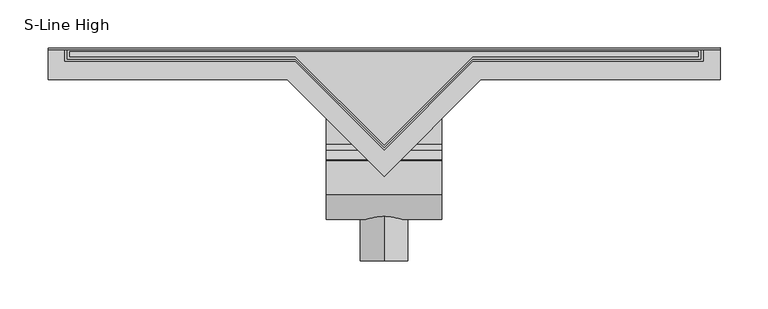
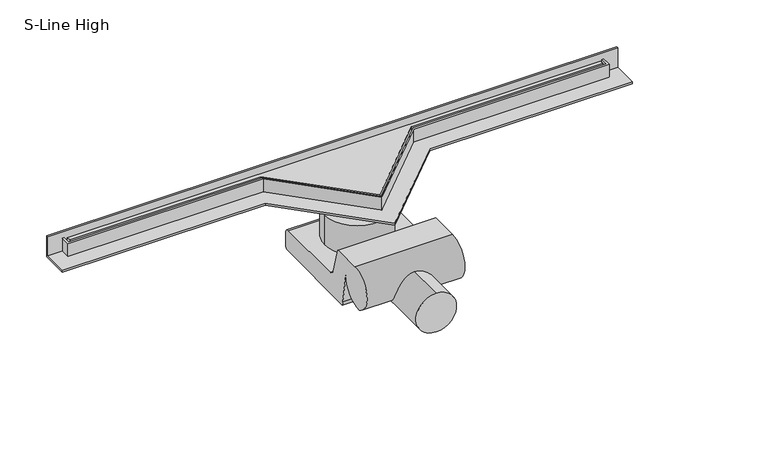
"""IFC4 building model written with IfcOpenShell, lengths in millimetres: sanitary terminal geometry, NLRS_PF_52_UN_S-Line TAF High_Easydrain : S-Line High."""

from ifc_helpers import new_model, si_unit, point, frame, frame_2d, origin, place, context, project, spatial, polyline, circle_curve, trimmed, segment, composite_curve, outline, extrude, faceted_brep, source, transform, mapped, element, save


def s_line_high_d0269925(model_context):
    return source(origin(), model_context, "Body", "SolidModel", [
        extrude(outline(composite_curve([segment(trimmed(circle_curve(frame_2d((-80.0, 0.0)), 25.0), [point((-105.0, 0.0))], [point((-55.0, 0.0))], False, "CARTESIAN"), True, "CONTINUOUS"), segment(trimmed(circle_curve(frame_2d((-80.0, 0.0)), 25.0), [point((-55.0, 0.0))], [point((-105.0, 0.0))], False, "CARTESIAN"), True, "CONTINUOUS")], self_intersect=False)), frame((0.0, -189.0, 0.0), z_axis=(0.0, 1.0, 0.0), x_axis=(0.0, 0.0, 1.0)), (0.0, 0.0, 1.0), 108.0),
        extrude(outline(composite_curve([segment(trimmed(circle_curve(frame_2d((22.3675767, -102.3675767)), 4.6324233), [point((27.0, -102.3675767))], [point((22.3675767, -107.0))], False, "CARTESIAN"), True, "CONTINUOUS"), segment(polyline([(22.3675767, -107.0), (-93.4993465, -107.0)]), True, "CONTINUOUS"), segment(trimmed(circle_curve(frame_2d((-78.5994856, -101.1878307)), 15.9933476), [point((-93.4993465, -107.0))], [point((-94.552105, -102.3284894))], False, "CARTESIAN"), True, "CONTINUOUS"), segment(polyline([(-94.552105, -102.3284894), (-101.0242264, -63.5447741)]), True, "CONTINUOUS"), segment(trimmed(circle_curve(frame_2d((-129.3084976, -63.5447741)), 28.2842712), [point((-101.0242264, -63.5447741))], [point((-129.3084976, -91.8290454))], False, "CARTESIAN"), True, "CONTINUOUS"), segment(trimmed(circle_curve(frame_2d((-119.8439198, -67.2956944)), 26.2956944), [point((-129.3084976, -91.8290454))], [point((-119.8439198, -41.0))], False, "CARTESIAN"), True, "CONTINUOUS"), segment(polyline([(-119.8439198, -41.0), (-84.5778291, -41.0)]), True, "CONTINUOUS"), segment(trimmed(circle_curve(frame_2d((-89.0794932, -46.731688)), 7.2881566), [point((-84.5778291, -41.0))], [point((-83.3799699, -42.189369))], False, "CARTESIAN"), True, "CONTINUOUS"), segment(polyline([(-83.3799699, -42.189369), (-74.2149251, -75.0)]), True, "CONTINUOUS"), segment(trimmed(circle_curve(frame_2d((-67.2657703, -72.6709247)), 7.3290753), [point((-74.2149251, -75.0))], [point((-67.2657703, -80.0))], True, "CARTESIAN"), True, "CONTINUOUS"), segment(polyline([(-67.2657703, -80.0), (21.6324233, -80.0)]), True, "CONTINUOUS"), segment(trimmed(circle_curve(frame_2d((21.6324233, -85.3675767)), 5.3675767), [point((21.6324233, -80.0))], [point((27.0, -85.3675767))], False, "CARTESIAN"), True, "CONTINUOUS"), segment(polyline([(27.0, -85.3675767), (27.0, -102.3675767)]), True, "CONTINUOUS")], self_intersect=False)), frame((-60.0, 0.0, 0.0), z_axis=(1.0, 0.0, 0.0), x_axis=(0.0, 1.0, 0.0)), (0.0, 0.0, 1.0), 120.0),
        extrude(outline(composite_curve([segment(trimmed(circle_curve(frame_2d((0.0, -21.0)), 40.0), [point((-40.0, -21.0))], [point((40.0, -21.0))], False, "CARTESIAN"), True, "CONTINUOUS"), segment(trimmed(circle_curve(frame_2d((0.0, -21.0)), 40.0), [point((40.0, -21.0))], [point((-40.0, -21.0))], False, "CARTESIAN"), True, "CONTINUOUS")], self_intersect=False)), frame((0.0, 0.0, -80.0), z_axis=(0.0, 0.0, 1.0), x_axis=(1.0, 0.0, 0.0)), (0.0, 0.0, 1.0), 39.0),
        extrude(outline(composite_curve([segment(trimmed(circle_curve(frame_2d((0.0, -21.0)), 25.0), [point((-25.0, -21.0))], [point((25.0, -21.0))], False, "CARTESIAN"), True, "CONTINUOUS"), segment(trimmed(circle_curve(frame_2d((0.0, -21.0)), 25.0), [point((25.0, -21.0))], [point((-25.0, -21.0))], False, "CARTESIAN"), True, "CONTINUOUS")], self_intersect=False)), frame((0.0, 0.0, -41.0), z_axis=(0.0, 0.0, 1.0), x_axis=(1.0, 0.0, 0.0)), (0.0, 0.0, 1.0), 24.0),
        faceted_brep([(350.0, 33.0, 8.0), (-350.0, 33.0, 8.0), (-350.0, 31.0, 8.0), (350.0, 31.0, 8.0), (-350.0, 31.0, -17.0), (350.0, 31.0, -17.0), (-336.0, 15.5, -24.5), (-336.0, 29.0, -24.5), (336.0, 29.0, -24.5), (336.0, 15.5, -24.5), (96.0, 15.5, -24.5), (0.0, -80.5, -24.5), (-96.0, 15.5, -24.5), (-96.0, 15.5, -19.5), (-336.0, 15.5, -19.5), (-336.0, 29.0, -19.5), (336.0, 29.0, -19.5), (336.0, 15.5, -19.5), (96.0, 15.5, -19.5), (0.0, -80.5, -19.5), (350.0, 33.0, -19.5), (350.0, 0.0, -19.5), (101.0, 0.0, -19.5), (0.0, -101.0, -19.5), (-101.0, 0.0, -19.5), (-350.0, 0.0, -19.5), (-350.0, 33.0, -19.5), (-350.0, 0.0, -17.0), (-101.0, 0.0, -17.0), (0.0, -101.0, -17.0), (101.0, 0.0, -17.0), (350.0, 0.0, -17.0)], [[[0, 1, 2, 3]], [[3, 2, 4, 5]], [[6, 7, 8, 9, 10, 11, 12]], [[6, 12, 13, 14]], [[7, 6, 14, 15]], [[8, 7, 15, 16]], [[9, 8, 16, 17]], [[10, 9, 17, 18]], [[11, 10, 18, 19]], [[12, 11, 19, 13]], [[20, 21, 22, 23, 24, 25, 26], [14, 13, 19, 18, 17, 16, 15]], [[27, 28, 29, 30, 31, 5, 4]], [[20, 26, 1, 0]], [[26, 25, 27, 4, 2, 1]], [[25, 24, 28, 27]], [[24, 23, 29, 28]], [[23, 22, 30, 29]], [[22, 21, 31, 30]], [[21, 20, 0, 3, 5, 31]]]),
        extrude(outline(composite_curve([segment(trimmed(circle_curve(frame_2d((0.0, -21.0)), 25.0), [point((-25.0, -21.0))], [point((25.0, -21.0))], False, "CARTESIAN"), True, "CONTINUOUS"), segment(trimmed(circle_curve(frame_2d((0.0, -21.0)), 25.0), [point((25.0, -21.0))], [point((-25.0, -21.0))], False, "CARTESIAN"), True, "CONTINUOUS")], self_intersect=False)), frame((0.0, 0.0, -24.5), z_axis=(0.0, 0.0, 1.0), x_axis=(1.0, 0.0, 0.0)), (0.0, 0.0, 1.0), 7.5),
        extrude(outline(polyline([(-92.5, 24.0), (-327.5, 24.0), (-327.5, 29.0), (327.5, 29.0), (327.5, 24.0), (92.5, 24.0), (0.0, -68.5), (-92.5, 24.0)])), frame((0.0, 0.0, -17.0), z_axis=(0.0, 0.0, 1.0), x_axis=(1.0, 0.0, 0.0)), (0.0, 0.0, 1.0), 17.0),
        extrude(outline(polyline([(332.5, 33.0), (332.5, 19.0), (92.5, 19.0), (0.0, -73.5), (-92.5, 19.0), (-332.5, 19.0), (-332.5, 33.0), (332.5, 33.0)]), holes=[polyline([(-92.5, 21.5), (0.0, -71.0), (92.5, 21.5), (330.0, 21.5), (330.0, 31.0), (-330.0, 31.0), (-330.0, 21.5), (-92.5, 21.5)])]), frame((0.0, 0.0, -17.0), z_axis=(0.0, 0.0, 1.0), x_axis=(1.0, 0.0, 0.0)), (0.0, 0.0, 1.0), 17.0),
    ])


if __name__ == "__main__":
    model = new_model("IFC4")
    model_context = context("Model", 3, world=origin())
    ifc_project = project(units=[si_unit("LENGTHUNIT", "METRE", prefix="MILLI")], contexts=[model_context])
    site = spatial("IfcSite", under=ifc_project)
    building = spatial("IfcBuilding", under=site)
    placement = place(None, origin())
    s_line_high_shape = s_line_high_d0269925(model_context)
    element("IfcSanitaryTerminal", 1, ObjectType="NLRS_PF_52_UN_S-Line TAF High_Easydrain : S-Line High", at=placement, inside=building, context=model_context, shape_type="MappedRepresentation", body=[
        mapped(s_line_high_shape, transform((0.0, 0.0, 0.0), x_axis=(1.0, 0.0, 0.0), y_axis=(0.0, 1.0, 0.0), z_axis=(0.0, 0.0, 1.0))),
    ])
    save(model, "model.ifc")
